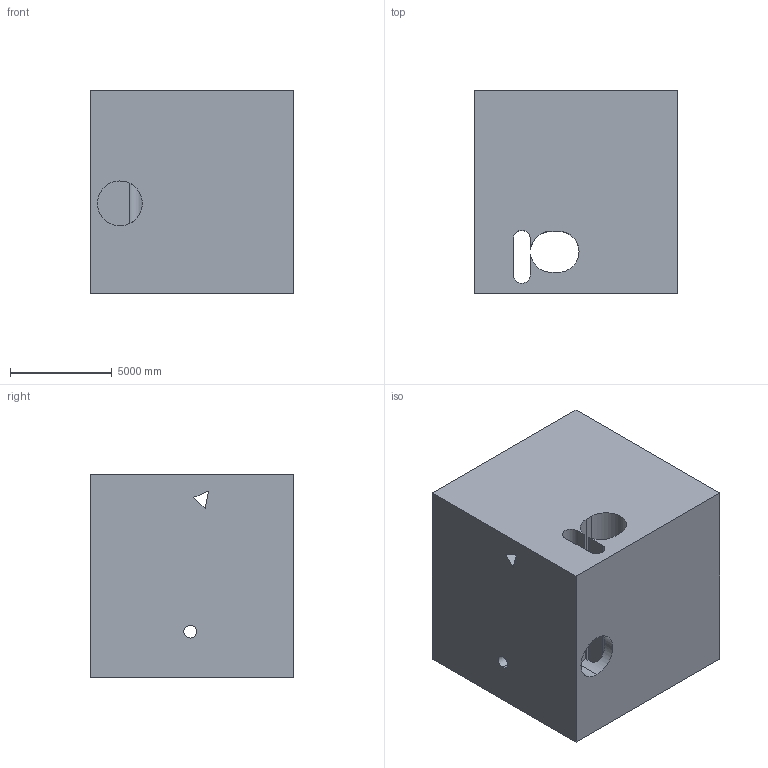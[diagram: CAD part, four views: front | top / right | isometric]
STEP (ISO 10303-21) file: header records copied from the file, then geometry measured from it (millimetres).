
FILE_DESCRIPTION (( 'STEP AP203' ), '1' );
FILE_NAME ('41.STEP', '2022-09-02T13:48:06', ( 'user' ), ( '' ), 'SwSTEP 2.0', 'SolidWorks 2021', '' );
FILE_SCHEMA (( 'CONFIG_CONTROL_DESIGN' ));
Length unit declared in the file: centimetre
Products named in the file (1): 41
Bounding box: 10000 x 10000 x 10000 mm (x, y, z)
Volume: 929602838491.4 mm3; surface area: 762396015.8 mm2
Topology: 1 solids, 1 shells, 24 faces, 69 edges, 46 vertices
Faces by surface type: plane 15, cylinder 9
Entity records: 1066 total; most frequent: CARTESIAN_POINT 323, ORIENTED_EDGE 138, DIRECTION 137, EDGE_CURVE 69, LINE 49, VECTOR 49, VERTEX_POINT 46, AXIS2_PLACEMENT_3D 44
